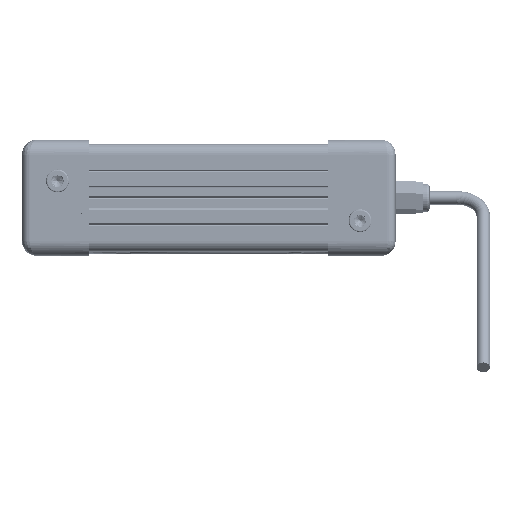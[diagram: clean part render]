
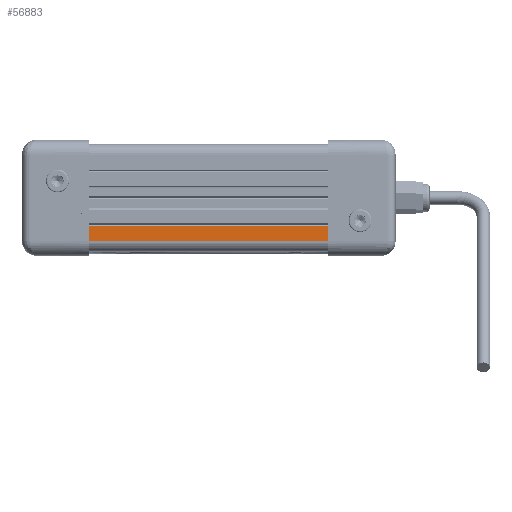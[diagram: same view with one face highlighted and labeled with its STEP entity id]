
A CAD part, front view. The second image highlights one B-rep face of the part: STEP entity #56883.
In plain terms, the highlighted planar face has unit normal (0, -1, 0) as drawn and (-1, 0, 0) by its records, which use the part's own axes.
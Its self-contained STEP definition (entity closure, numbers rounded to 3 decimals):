
#5419 = CARTESIAN_POINT ( 'NONE',  ( -9., -16., 99. ) ) ;
#8878 = ORIENTED_EDGE ( 'NONE', *, *, #69189, .T. ) ;
#12938 = DIRECTION ( 'NONE',  ( 0., -1., 0. ) ) ;
#26989 = DIRECTION ( 'NONE',  ( 0., 0., -1. ) ) ;
#28420 = CARTESIAN_POINT ( 'NONE',  ( -9., -16., 99. ) ) ;
#33774 = DIRECTION ( 'NONE',  ( 0., 0., -1. ) ) ;
#34614 = EDGE_CURVE ( 'NONE', #69036, #49399, #40006, .T. ) ;
#36110 = VECTOR ( 'NONE', #39777, 1000. ) ;
#36411 = AXIS2_PLACEMENT_3D ( 'NONE', #56894, #66974, #73633 ) ;
#37145 = ORIENTED_EDGE ( 'NONE', *, *, #57255, .F. ) ;
#39433 = CARTESIAN_POINT ( 'NONE',  ( -9., -10.5, 0. ) ) ;
#39777 = DIRECTION ( 'NONE',  ( 0., -1., 0. ) ) ;
#40006 = LINE ( 'NONE', #72734, #60453 ) ;
#43554 = CARTESIAN_POINT ( 'NONE',  ( -9., -10.5, 99. ) ) ;
#45391 = PLANE ( 'NONE',  #36411 ) ;
#47581 = VERTEX_POINT ( 'NONE', #63755 ) ;
#49399 = VERTEX_POINT ( 'NONE', #39433 ) ;
#49804 = VERTEX_POINT ( 'NONE', #28420 ) ;
#51329 = EDGE_CURVE ( 'NONE', #69036, #49804, #62094, .T. ) ;
#56126 = CARTESIAN_POINT ( 'NONE',  ( -9., -10.5, 99. ) ) ;
#56883 = ADVANCED_FACE ( 'NONE', ( #61781 ), #45391, .F. ) ;
#56894 = CARTESIAN_POINT ( 'NONE',  ( -9., -10.5, 99. ) ) ;
#57255 = EDGE_CURVE ( 'NONE', #49804, #47581, #62046, .T. ) ;
#58342 = ORIENTED_EDGE ( 'NONE', *, *, #34614, .T. ) ;
#60453 = VECTOR ( 'NONE', #26989, 1000. ) ;
#61632 = ORIENTED_EDGE ( 'NONE', *, *, #51329, .F. ) ;
#61781 = FACE_OUTER_BOUND ( 'NONE', #73324, .T. ) ;
#62046 = LINE ( 'NONE', #5419, #64968 ) ;
#62094 = LINE ( 'NONE', #56126, #36110 ) ;
#63755 = CARTESIAN_POINT ( 'NONE',  ( -9., -16., 0. ) ) ;
#63956 = CARTESIAN_POINT ( 'NONE',  ( -9., -10.5, 0. ) ) ;
#64170 = VECTOR ( 'NONE', #12938, 1000. ) ;
#64968 = VECTOR ( 'NONE', #33774, 1000. ) ;
#66974 = DIRECTION ( 'NONE',  ( 1., 0., 0. ) ) ;
#69036 = VERTEX_POINT ( 'NONE', #43554 ) ;
#69138 = LINE ( 'NONE', #63956, #64170 ) ;
#69189 = EDGE_CURVE ( 'NONE', #49399, #47581, #69138, .T. ) ;
#72734 = CARTESIAN_POINT ( 'NONE',  ( -9., -10.5, 99. ) ) ;
#73324 = EDGE_LOOP ( 'NONE', ( #8878, #37145, #61632, #58342 ) ) ;
#73633 = DIRECTION ( 'NONE',  ( 0., 1., 0. ) ) ;
